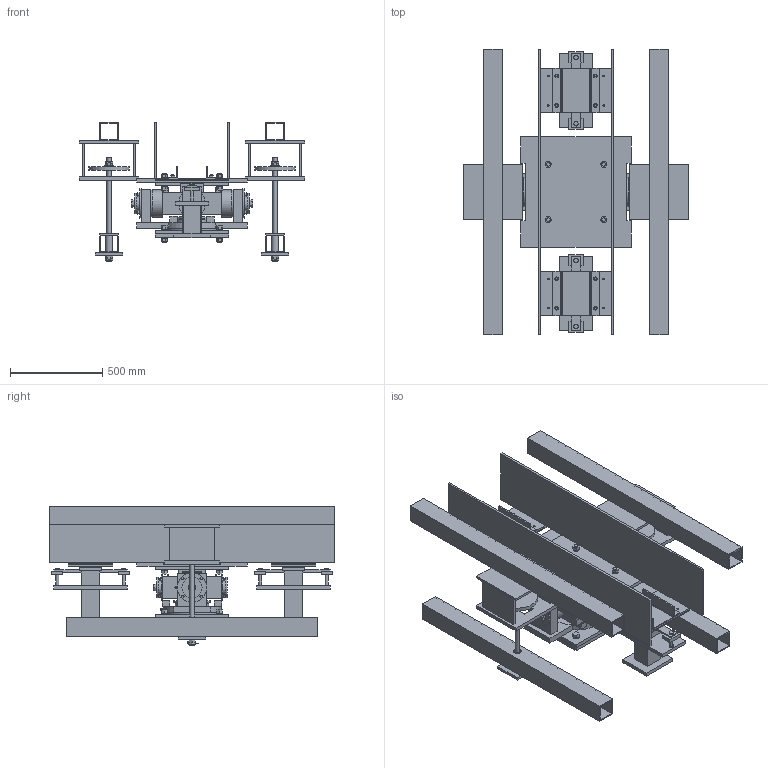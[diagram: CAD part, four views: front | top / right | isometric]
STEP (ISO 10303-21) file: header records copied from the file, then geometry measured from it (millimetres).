
FILE_DESCRIPTION(('Open CASCADE Model'),'2;1');
FILE_NAME('Open CASCADE Shape Model','2026-10-19T14:33:48',('Author'),( 'Open CASCADE'),'Open CASCADE STEP processor 7.8','Open CASCADE 7.8' ,'Unknown');
FILE_SCHEMA(('AUTOMOTIVE_DESIGN { 1 0 10303 214 1 1 1 1 }'));
Length unit declared in the file: millimetre
Products named in the file (284): Open CASCADE STEP translator 7.8 1; Open CASCADE STEP translator 7.8 1.1; Open CASCADE STEP translator 7.8 1.2; Open CASCADE STEP translator 7.8 1.3; Open CASCADE STEP translator 7.8 1.4; Open CASCADE STEP translator 7.8 1.5; Open CASCADE STEP translator 7.8 1.6; Open CASCADE STEP translator 7.8 1.7; Open CASCADE STEP translator 7.8 1.8; Open CASCADE STEP translator 7.8 1.9; Open CASCADE STEP translator 7.8 1.10; Open CASCADE STEP translator 7.8 1.11; Open CASCADE STEP translator 7.8 1.12; Open CASCADE STEP translator 7.8 1.13; Open CASCADE STEP translator 7.8 1.14; Open CASCADE STEP translator 7.8 1.15; Open CASCADE STEP translator 7.8 1.16; Open CASCADE STEP translator 7.8 1.17; Open CASCADE STEP translator 7.8 1.18; Open CASCADE STEP translator 7.8 1.19; Open CASCADE STEP translator 7.8 1.20; Open CASCADE STEP translator 7.8 1.21; Open CASCADE STEP translator 7.8 1.22; Open CASCADE STEP translator 7.8 1.23; Open CASCADE STEP translator 7.8 1.24; Open CASCADE STEP translator 7.8 1.25; Open CASCADE STEP translator 7.8 1.26; Open CASCADE STEP translator 7.8 1.27; Open CASCADE STEP translator 7.8 1.28; Open CASCADE STEP translator 7.8 1.29; Open CASCADE STEP translator 7.8 1.30; Open CASCADE STEP translator 7.8 1.31; Open CASCADE STEP translator 7.8 1.32; Open CASCADE STEP translator 7.8 1.33; Open CASCADE STEP translator 7.8 1.34; Open CASCADE STEP translator 7.8 1.35; Open CASCADE STEP translator 7.8 1.36; Open CASCADE STEP translator 7.8 1.37; Open CASCADE STEP translator 7.8 1.38; Open CASCADE STEP translator 7.8 1.39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
Assembly tree (283 placements, depth 2):
  Open CASCADE STEP translator 7.8 1
    Open CASCADE STEP translator 7.8 1.1
    Open CASCADE STEP translator 7.8 1.2
    Open CASCADE STEP translator 7.8 1.3
    Open CASCADE STEP translator 7.8 1.4
    Open CASCADE STEP translator 7.8 1.5
    Open CASCADE STEP translator 7.8 1.6
    Open CASCADE STEP translator 7.8 1.7
    Open CASCADE STEP translator 7.8 1.8
    Open CASCADE STEP translator 7.8 1.9
    Open CASCADE STEP translator 7.8 1.10
    Open CASCADE STEP translator 7.8 1.11
    Open CASCADE STEP translator 7.8 1.12
    Open CASCADE STEP translator 7.8 1.13
    Open CASCADE STEP translator 7.8 1.14
    Open CASCADE STEP translator 7.8 1.15
    Open CASCADE STEP translator 7.8 1.16
    Open CASCADE STEP translator 7.8 1.17
    Open CASCADE STEP translator 7.8 1.18
    Open CASCADE STEP translator 7.8 1.19
    Open CASCADE STEP translator 7.8 1.20
    Open CASCADE STEP translator 7.8 1.21
    Open CASCADE STEP translator 7.8 1.22
    Open CASCADE STEP translator 7.8 1.23
    Open CASCADE STEP translator 7.8 1.24
    Open CASCADE STEP translator 7.8 1.25
    Open CASCADE STEP translator 7.8 1.26
    Open CASCADE STEP translator 7.8 1.27
    Open CASCADE STEP translator 7.8 1.28
    Open CASCADE STEP translator 7.8 1.29
    Open CASCADE STEP translator 7.8 1.30
    Open CASCADE STEP translator 7.8 1.31
    Open CASCADE STEP translator 7.8 1.32
    Open CASCADE STEP translator 7.8 1.33
    Open CASCADE STEP translator 7.8 1.34
    Open CASCADE STEP translator 7.8 1.35
    Open CASCADE STEP translator 7.8 1.36
    Open CASCADE STEP translator 7.8 1.37
    Open CASCADE STEP translator 7.8 1.38
    Open CASCADE STEP translator 7.8 1.39
    Open CASCADE STEP translator 7.8 1.40
    Open CASCADE STEP translator 7.8 1.41
    Open CASCADE STEP translator 7.8 1.42
    Open CASCADE STEP translator 7.8 1.43
    Open CASCADE STEP translator 7.8 1.44
    Open CASCADE STEP translator 7.8 1.45
    Open CASCADE STEP translator 7.8 1.46
    Open CASCADE STEP translator 7.8 1.47
    Open CASCADE STEP translator 7.8 1.48
    Open CASCADE STEP translator 7.8 1.49
    Open CASCADE STEP translator 7.8 1.50
    Open CASCADE STEP translator 7.8 1.51
    Open CASCADE STEP translator 7.8 1.52
    Open CASCADE STEP translator 7.8 1.53
    Open CASCADE STEP translator 7.8 1.54
    Open CASCADE STEP translator 7.8 1.55
    Open CASCADE STEP translator 7.8 1.56
    Open CASCADE STEP translator 7.8 1.57
    Open CASCADE STEP translator 7.8 1.58
    Open CASCADE STEP translator 7.8 1.59
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Bounding box: 1220 x 1545.6 x 755 mm (x, y, z)
Volume: 86824570.7 mm3; surface area: 14916805.7 mm2
Topology: 283 solids, 283 shells, 2229 faces, 4578 edges, 3018 vertices
Faces by surface type: plane 1625, cylinder 538, cone 48, sphere 14, torus 4
Full cylindrical faces by diameter (mm): 4 x15, 5 x18, 6 x8, 6.6 x2, 6.8 x24, 8 x24, 8.4 x3, 8.7 x32, 9 x24, 10.2 x4, 12 x20, 12.5 x4, 13 x32, 13.5 x32, 14 x8, 16 x12, 17 x4, 18 x8, 19.5 x16, 20 x16, 21 x3, 21.4 x32, 22 x16, 24 x17, 25.3 x6, 26 x13, 30.7 x32, 39 x6, 40 x2, 42 x4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
Entity records: 127052 total; most frequent: CARTESIAN_POINT 23522, DIRECTION 19604, LINE 10939, VECTOR 10939, ORIENTED_EDGE 9144, PCURVE 9144, DEFINITIONAL_REPRESENTATION 9144, EDGE_CURVE 4572
